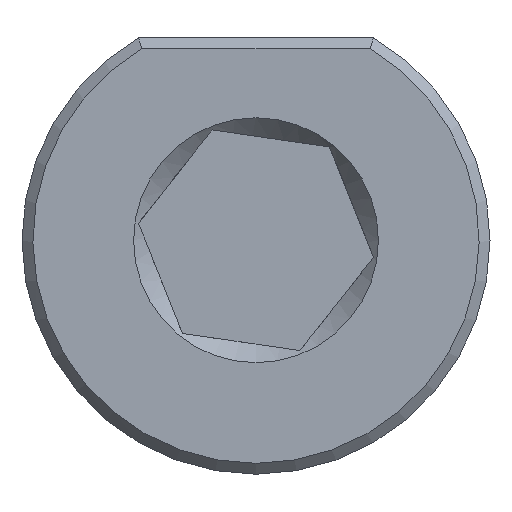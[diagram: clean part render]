
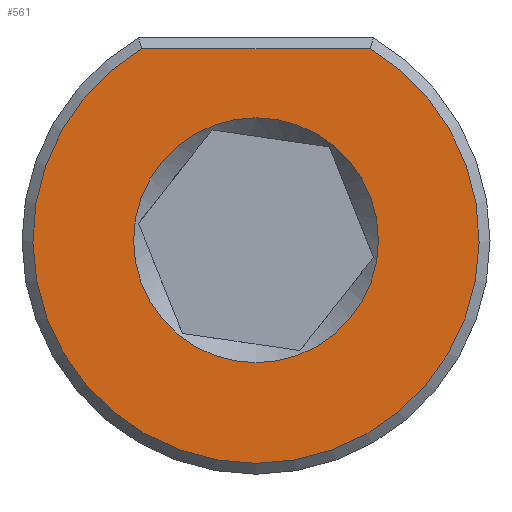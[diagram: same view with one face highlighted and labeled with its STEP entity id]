
A CAD part, front view. The second image highlights one B-rep face of the part: STEP entity #561.
In plain terms, the highlighted planar face has unit normal (0, -1, 0).
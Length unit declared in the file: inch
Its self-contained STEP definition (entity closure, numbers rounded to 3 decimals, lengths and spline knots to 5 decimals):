
#31=PLANE('',#635);
#46=FACE_BOUND('',#115,.T.);
#76=FACE_OUTER_BOUND('',#114,.T.);
#114=EDGE_LOOP('',(#459,#460));
#115=EDGE_LOOP('',(#461));
#153=LINE('',#999,#184);
#184=VECTOR('',#747,0.3937);
#223=CIRCLE('',#629,0.41);
#228=CIRCLE('',#636,0.225);
#262=VERTEX_POINT('',#997);
#263=VERTEX_POINT('',#998);
#268=VERTEX_POINT('',#1021);
#329=EDGE_CURVE('',#262,#263,#153,.T.);
#333=EDGE_CURVE('',#263,#262,#223,.T.);
#338=EDGE_CURVE('',#268,#268,#228,.T.);
#459=ORIENTED_EDGE('',*,*,#329,.F.);
#460=ORIENTED_EDGE('',*,*,#333,.F.);
#461=ORIENTED_EDGE('',*,*,#338,.F.);
#561=ADVANCED_FACE('',(#76,#46),#31,.T.);
#629=AXIS2_PLACEMENT_3D('',#1010,#751,#752);
#635=AXIS2_PLACEMENT_3D('',#1020,#763,#764);
#636=AXIS2_PLACEMENT_3D('',#1022,#765,#766);
#747=DIRECTION('',(1.,0.,0.));
#751=DIRECTION('center_axis',(0.,1.,0.));
#752=DIRECTION('ref_axis',(0.,0.,-1.));
#763=DIRECTION('center_axis',(0.,-1.,0.));
#764=DIRECTION('ref_axis',(0.,0.,-1.));
#765=DIRECTION('center_axis',(0.,-1.,0.));
#766=DIRECTION('ref_axis',(0.,0.,1.));
#997=CARTESIAN_POINT('',(-0.21023,0.,0.352));
#998=CARTESIAN_POINT('',(0.21023,0.,0.352));
#999=CARTESIAN_POINT('',(0.10784,0.,0.352));
#1010=CARTESIAN_POINT('Origin',(0.,0.,0.));
#1020=CARTESIAN_POINT('Origin',(0.,0.,-0.185));
#1021=CARTESIAN_POINT('',(0.,0.,-0.225));
#1022=CARTESIAN_POINT('Origin',(0.,0.,0.));
